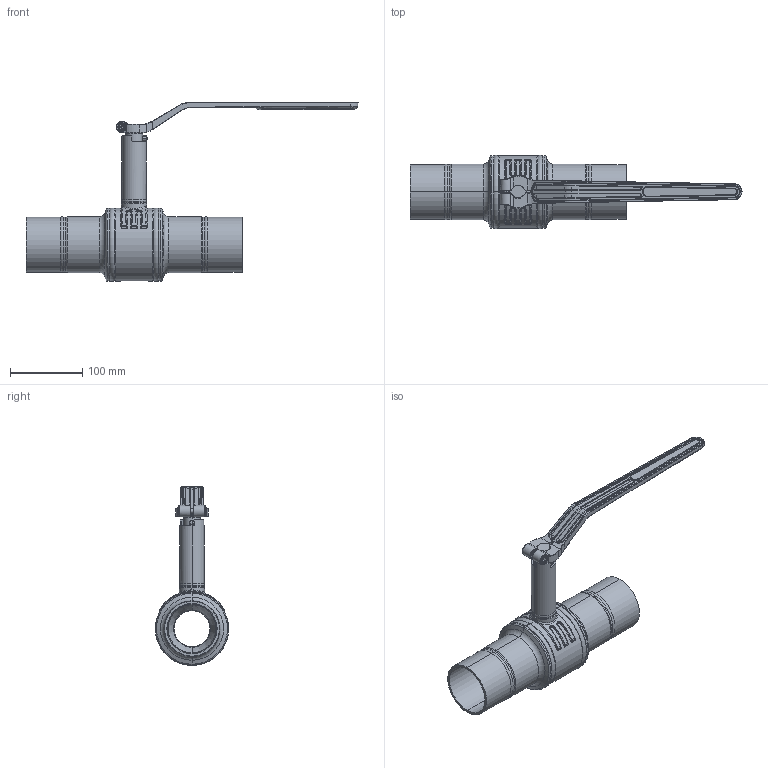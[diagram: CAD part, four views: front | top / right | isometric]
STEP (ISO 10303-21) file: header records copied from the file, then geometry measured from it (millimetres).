
FILE_DESCRIPTION((''),'2;1');
FILE_NAME('KHMO-S-R-H-065R050P04_SW0001','2022-10-18T15:44:47',('jeitlers'),('KLINGER'),'CREO PARAMETRIC BY PTC INC, 2020184','CREO PARAMETRIC BY PTC INC, 2020184','');
FILE_SCHEMA(('AUTOMOTIVE_DESIGN { 1 0 10303 214 1 1 1 1 }'));
Length unit declared in the file: millimetre
Products named in the file (1): KHMO-S-R-H-065R050P04_SW0001
Bounding box: 460.8 x 101.91 x 248.25 mm (x, y, z)
Volume: 798629.3 mm3; surface area: 265152.2 mm2
Topology: 3 solids, 3 shells, 960 faces, 2232 edges, 1287 vertices
Faces by surface type: cylinder 300, bspline 208, torus 190, plane 155, cone 90, extrusion 8, sphere 8, revolution 1
Entity records: 55558 total; most frequent: CARTESIAN_POINT 33818, ORIENTED_EDGE 4446, DIRECTION 4205, EDGE_CURVE 2223, AXIS2_PLACEMENT_3D 1777, VERTEX_POINT 1287, CIRCLE 1020, EDGE_LOOP 1002
